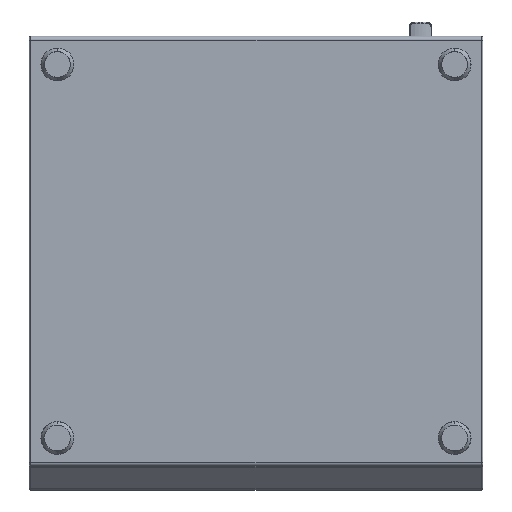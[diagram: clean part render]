
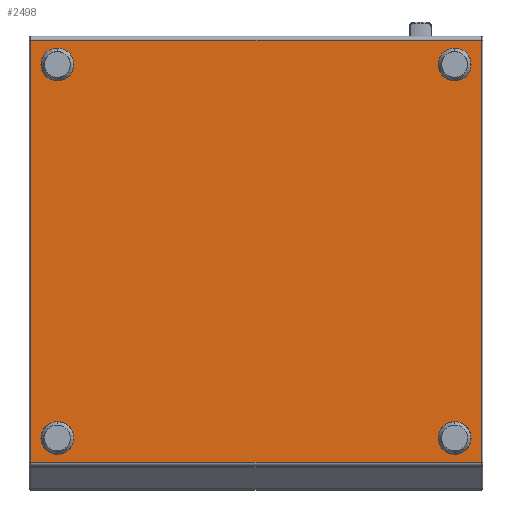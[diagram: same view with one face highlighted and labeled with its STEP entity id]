
A CAD part, front view. The second image highlights one B-rep face of the part: STEP entity #2498.
In plain terms, the highlighted planar face has unit normal (0, -1, 0).
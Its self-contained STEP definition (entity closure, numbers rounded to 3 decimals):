
#140 = EDGE_LOOP ( 'NONE', ( #16799, #16797, #16798, #16796 ) ) ;
#147 = EDGE_LOOP ( 'NONE', ( #16803, #16802 ) ) ;
#2498 = ADVANCED_FACE ( 'NONE', ( #15586, #15581 ), #5251, .F. ) ;
#2923 = CARTESIAN_POINT ( 'NONE',  ( 175., -180.154, 179.545 ) ) ;
#3044 = CARTESIAN_POINT ( 'NONE',  ( 175., -180.154, 170.455 ) ) ;
#3104 = CARTESIAN_POINT ( 'NONE',  ( 175., -180.154, 179.545 ) ) ;
#3105 = CARTESIAN_POINT ( 'NONE',  ( 184.09, -180.154, 179.545 ) ) ;
#3106 = CARTESIAN_POINT ( 'NONE',  ( 184.09, -180.154, 170.455 ) ) ;
#3107 = CARTESIAN_POINT ( 'NONE',  ( 175., -180.154, 170.455 ) ) ;
#5246 = DIRECTION ( 'NONE',  ( 0., 0., 1. ) ) ;
#5248 = DIRECTION ( 'NONE',  ( 0., 1., 0. ) ) ;
#5250 = CARTESIAN_POINT ( 'NONE',  ( 200., -180.153, 196.5 ) ) ;
#5251 = PLANE ( 'NONE',  #15575 ) ;
#6704 = CARTESIAN_POINT ( 'NONE',  ( 198.5, -180.153, 196.5 ) ) ;
#6751 = CARTESIAN_POINT ( 'NONE',  ( 198.5, -180.174, -175.726 ) ) ;
#6754 = CARTESIAN_POINT ( 'NONE',  ( -198.5, -180.153, 196.5 ) ) ;
#6790 = CARTESIAN_POINT ( 'NONE',  ( -198.5, -180.174, -175.726 ) ) ;
#8441 = EDGE_CURVE ( 'NONE', #16092, #16121, #10393, .T. ) ;
#8538 = EDGE_CURVE ( 'NONE', #20854, #20932, #17550, .T. ) ;
#8539 = EDGE_CURVE ( 'NONE', #20991, #20936, #17561, .T. ) ;
#8541 = EDGE_CURVE ( 'NONE', #20932, #20991, #17575, .T. ) ;
#8543 = EDGE_CURVE ( 'NONE', #20936, #20854, #17602, .T. ) ;
#9156 = EDGE_CURVE ( 'NONE', #16121, #16092, #9591, .T. ) ;
#9591 =( BOUNDED_CURVE ( )  B_SPLINE_CURVE ( 3, ( #3107, #3106, #3105, #3104 ),
 .UNSPECIFIED., .F., .F. ) 
 B_SPLINE_CURVE_WITH_KNOTS ( ( 4, 4 ),
 ( 0., 3.142 ),
 .UNSPECIFIED. ) 
 CURVE ( )  GEOMETRIC_REPRESENTATION_ITEM ( )  RATIONAL_B_SPLINE_CURVE ( ( 1., 0.333, 0.333, 1. ) ) 
 REPRESENTATION_ITEM ( '' )  );
#10393 =( BOUNDED_CURVE ( )  B_SPLINE_CURVE ( 3, ( #17457, #17456, #17455, #17453 ),
 .UNSPECIFIED., .F., .T. ) 
 B_SPLINE_CURVE_WITH_KNOTS ( ( 4, 4 ),
 ( 3.142, 6.283 ),
 .UNSPECIFIED. ) 
 CURVE ( )  GEOMETRIC_REPRESENTATION_ITEM ( )  RATIONAL_B_SPLINE_CURVE ( ( 1., 0.333, 0.333, 1. ) ) 
 REPRESENTATION_ITEM ( '' )  );
#14710 = VECTOR ( 'NONE', #17564, 1000. ) ;
#14737 = VECTOR ( 'NONE', #17605, 1000. ) ;
#14758 = VECTOR ( 'NONE', #17589, 1000. ) ;
#15142 = VECTOR ( 'NONE', #17559, 1000. ) ;
#15575 = AXIS2_PLACEMENT_3D ( 'NONE', #5250, #5248, #5246 ) ;
#15581 = FACE_OUTER_BOUND ( 'NONE', #140, .T. ) ;
#15586 = FACE_BOUND ( 'NONE', #147, .T. ) ;
#16092 = VERTEX_POINT ( 'NONE', #2923 ) ;
#16121 = VERTEX_POINT ( 'NONE', #3044 ) ;
#16796 = ORIENTED_EDGE ( 'NONE', *, *, #8543, .F. ) ;
#16797 = ORIENTED_EDGE ( 'NONE', *, *, #8541, .F. ) ;
#16798 = ORIENTED_EDGE ( 'NONE', *, *, #8538, .F. ) ;
#16799 = ORIENTED_EDGE ( 'NONE', *, *, #8539, .F. ) ;
#16802 = ORIENTED_EDGE ( 'NONE', *, *, #8441, .F. ) ;
#16803 = ORIENTED_EDGE ( 'NONE', *, *, #9156, .F. ) ;
#17453 = CARTESIAN_POINT ( 'NONE',  ( 175., -180.154, 170.455 ) ) ;
#17455 = CARTESIAN_POINT ( 'NONE',  ( 165.91, -180.154, 170.455 ) ) ;
#17456 = CARTESIAN_POINT ( 'NONE',  ( 165.91, -180.154, 179.545 ) ) ;
#17457 = CARTESIAN_POINT ( 'NONE',  ( 175., -180.154, 179.545 ) ) ;
#17550 = LINE ( 'NONE', #17556, #15142 ) ;
#17556 = CARTESIAN_POINT ( 'NONE',  ( 198.5, -180.152, 198.46 ) ) ;
#17559 = DIRECTION ( 'NONE',  ( 0., 0., -1. ) ) ;
#17561 = LINE ( 'NONE', #17562, #14710 ) ;
#17562 = CARTESIAN_POINT ( 'NONE',  ( -198.5, -180.153, 196.5 ) ) ;
#17564 = DIRECTION ( 'NONE',  ( 0., 0., 1. ) ) ;
#17575 = LINE ( 'NONE', #17581, #14758 ) ;
#17581 = CARTESIAN_POINT ( 'NONE',  ( 200., -180.174, -175.726 ) ) ;
#17589 = DIRECTION ( 'NONE',  ( -1., 0., 0. ) ) ;
#17602 = LINE ( 'NONE', #17604, #14737 ) ;
#17604 = CARTESIAN_POINT ( 'NONE',  ( 200., -180.153, 196.5 ) ) ;
#17605 = DIRECTION ( 'NONE',  ( 1., 0., 0. ) ) ;
#20854 = VERTEX_POINT ( 'NONE', #6704 ) ;
#20932 = VERTEX_POINT ( 'NONE', #6751 ) ;
#20936 = VERTEX_POINT ( 'NONE', #6754 ) ;
#20991 = VERTEX_POINT ( 'NONE', #6790 ) ;
